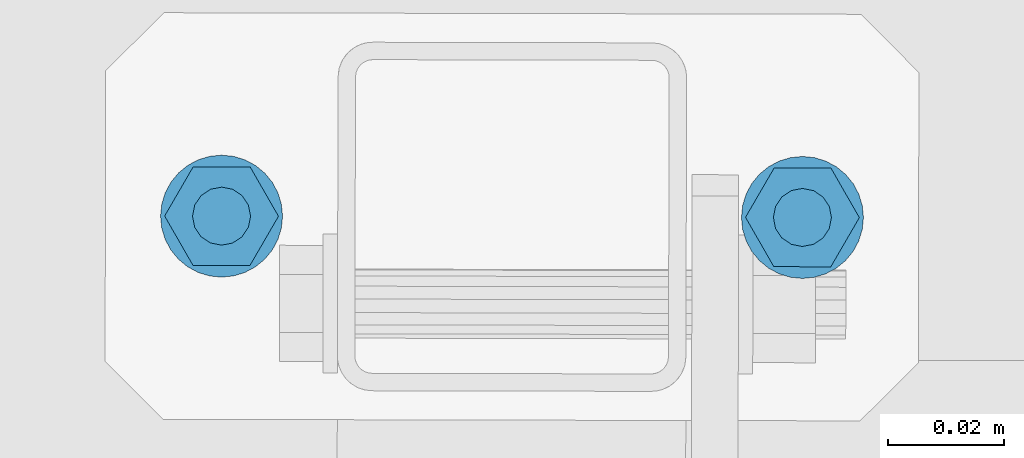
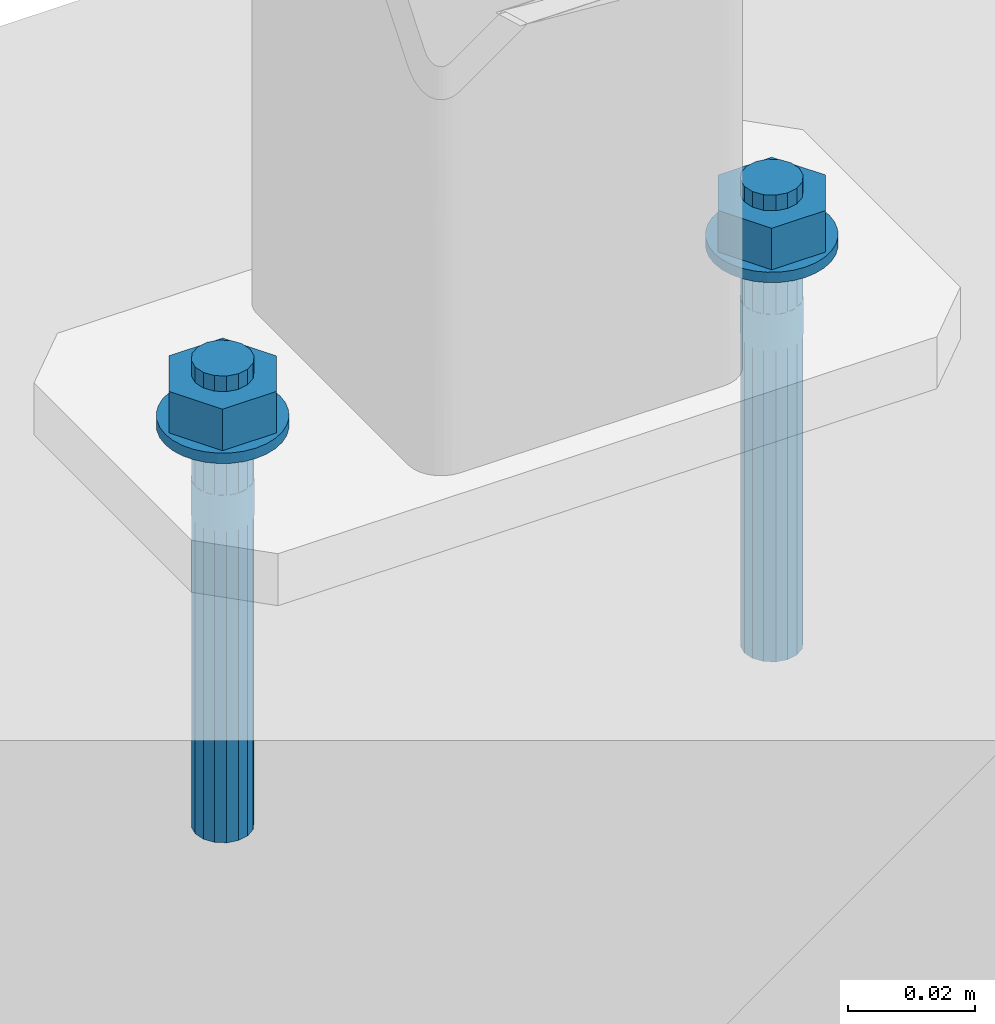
# One storey, part 231 of 288: 2 mechanical fasteners.
"""IFC2X3 building model written with IfcOpenShell, lengths in millimetres."""

from ifc_helpers import new_model, entity, si_unit, converted_unit, origin_with_axes, place, context, project, spatial, faceted_brep, element, save


model = new_model("IFC2X3")

# Units and contexts
model_context = context("Model", 3, precision=1e-09, world=origin_with_axes())
ifc_project = project(units=[si_unit("LENGTHUNIT", "METRE", prefix="MILLI"), si_unit("AREAUNIT", "SQUARE_METRE"), si_unit("VOLUMEUNIT", "CUBIC_METRE"), converted_unit("PLANEANGLEUNIT", "DEGREE", entity("IfcPlaneAngleMeasure", 0.01745329), si_unit("PLANEANGLEUNIT", "RADIAN"), dimensions=[0, 0, 0, 0, 0, 0, 0])], contexts=[model_context])

# Site, building, storey
site_placement = place(None, origin_with_axes())
site = spatial("IfcSite", under=ifc_project, at=site_placement, Name="Remont ?wietlik?w nad MC w NCPP w Opolu", CompositionType="ELEMENT")
building_placement = place(site_placement, origin_with_axes())
building = spatial("IfcBuilding", under=site, at=building_placement, Name="Konstrukcja 1", CompositionType="ELEMENT")
storey_placement = place(building_placement, origin_with_axes())
storey = spatial("IfcBuildingStorey", under=building, at=storey_placement, Name="Default Storey", CompositionType="ELEMENT", Elevation=0.0)

# Mechanical fasteners
mechanical_fastener_1_placement = place(None, origin_with_axes())
element("IfcMechanicalFastener", 1, at=mechanical_fastener_1_placement, inside=storey, ObjectType="Anchor_Bolt", NominalDiameter=10.0, NominalLength=90.0, context=model_context, shape_type="Brep", body=[
    faceted_brep([(10169.751802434, 1872.325796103, 12.000000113), (10169.751802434, 1872.325796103, 10.000000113), (10167.702902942, 1872.128675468, 10.000000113), (10167.702902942, 1872.128675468, 12.000000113), (10165.731828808, 1871.535621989, 10.000000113), (10165.731828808, 1871.535621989, 12.000000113), (10163.914327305, 1870.569426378, 10.000000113), (10163.914327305, 1870.569426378, 12.000000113), (10162.320243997, 1869.267218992, 10.000000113), (10162.320243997, 1869.267218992, 12.000000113), (10161.01083861, 1867.67904293, 10.000000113), (10161.01083861, 1867.67904293, 12.000000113), (10160.036430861, 1865.865930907, 10.000000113), (10160.036430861, 1865.865930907, 12.000000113), (10159.434466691, 1863.897559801, 10.000000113), (10159.434466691, 1863.897559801, 12.000000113), (10159.228079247, 1861.84957301, 10.000000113), (10159.228079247, 1861.84957301, 12.000000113), (10159.425199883, 1859.800673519, 10.000000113), (10159.425199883, 1859.800673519, 12.000000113), (10160.018253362, 1857.829599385, 10.000000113), (10160.018253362, 1857.829599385, 12.000000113), (10160.984448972, 1856.012097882, 10.000000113), (10160.984448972, 1856.012097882, 12.000000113), (10162.286656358, 1854.418014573, 10.000000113), (10162.286656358, 1854.418014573, 12.000000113), (10163.874832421, 1853.108609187, 10.000000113), (10163.874832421, 1853.108609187, 12.000000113), (10165.687944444, 1852.134201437, 10.000000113), (10165.687944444, 1852.134201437, 12.000000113), (10167.656315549, 1851.532237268, 10.000000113), (10167.656315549, 1851.532237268, 12.000000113), (10169.70430234, 1851.325849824, 10.000000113), (10169.70430234, 1851.325849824, 12.000000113), (10171.753201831, 1851.522970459, 10.000000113), (10171.753201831, 1851.522970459, 12.000000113), (10173.724275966, 1852.116023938, 10.000000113), (10173.724275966, 1852.116023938, 12.000000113), (10175.541777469, 1853.082219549, 10.000000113), (10175.541777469, 1853.082219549, 12.000000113), (10177.135860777, 1854.384426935, 10.000000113), (10177.135860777, 1854.384426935, 12.000000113), (10178.445266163, 1855.972602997, 10.000000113), (10178.445266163, 1855.972602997, 12.000000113), (10179.419673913, 1857.78571502, 10.000000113), (10179.419673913, 1857.78571502, 12.000000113), (10180.021638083, 1859.754086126, 10.000000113), (10180.021638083, 1859.754086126, 12.000000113), (10180.228025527, 1861.802072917, 10.000000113), (10180.228025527, 1861.802072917, 12.000000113), (10180.030904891, 1863.850972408, 10.000000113), (10180.030904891, 1863.850972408, 12.000000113), (10179.437851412, 1865.822046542, 10.000000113), (10179.437851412, 1865.822046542, 12.000000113), (10178.471655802, 1867.639548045, 10.000000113), (10178.471655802, 1867.639548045, 12.000000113), (10177.169448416, 1869.233631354, 10.000000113), (10177.169448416, 1869.233631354, 12.000000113), (10175.581272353, 1870.54303674, 10.000000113), (10175.581272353, 1870.54303674, 12.000000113), (10173.76816033, 1871.51744449, 10.000000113), (10173.76816033, 1871.51744449, 12.000000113), (10171.799789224, 1872.119408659, 10.000000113), (10171.799789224, 1872.119408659, 12.000000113)], [[[0, 1, 2, 3]], [[3, 2, 4, 5]], [[5, 4, 6, 7]], [[7, 6, 8, 9]], [[9, 8, 10, 11]], [[11, 10, 12, 13]], [[13, 12, 14, 15]], [[15, 14, 16, 17]], [[17, 16, 18, 19]], [[19, 18, 20, 21]], [[21, 20, 22, 23]], [[23, 22, 24, 25]], [[25, 24, 26, 27]], [[27, 26, 28, 29]], [[29, 28, 30, 31]], [[31, 30, 32, 33]], [[33, 32, 34, 35]], [[35, 34, 36, 37]], [[37, 36, 38, 39]], [[39, 38, 40, 41]], [[41, 40, 42, 43]], [[43, 42, 44, 45]], [[45, 44, 46, 47]], [[47, 46, 48, 49]], [[49, 48, 50, 51]], [[51, 50, 52, 53]], [[53, 52, 54, 55]], [[55, 54, 56, 57]], [[57, 56, 58, 59]], [[59, 58, 60, 61]], [[61, 60, 62, 63]], [[63, 62, 1, 0]], [[0, 3, 5, 7, 9, 11, 13, 15, 17, 19, 21, 23, 25, 27, 29, 31, 33, 35, 37, 39, 41, 43, 45, 47, 49, 51, 53, 55, 57, 59, 61, 63]], [[1, 62, 60, 58, 56, 54, 52, 50, 48, 46, 44, 42, 40, 38, 36, 34, 32, 30, 28, 26, 24, 22, 20, 18, 16, 14, 12, 10, 8, 6, 4, 2]]]),
    faceted_brep([(10164.808867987, 1853.349879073, 12.000000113), (10164.808867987, 1853.349879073, 20.000000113), (10159.928077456, 1861.847989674, 20.000000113), (10159.928077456, 1861.847989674, 12.000000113), (10164.847261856, 1870.323933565, 20.000000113), (10164.847261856, 1870.323933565, 12.000000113), (10174.647236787, 1870.301766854, 20.000000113), (10174.647236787, 1870.301766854, 12.000000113), (10179.528027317, 1861.803656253, 20.000000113), (10179.528027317, 1861.803656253, 12.000000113), (10174.608842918, 1853.327712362, 20.000000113), (10174.608842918, 1853.327712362, 12.000000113)], [[[0, 1, 2, 3]], [[3, 2, 4, 5]], [[5, 4, 6, 7]], [[7, 6, 8, 9]], [[9, 8, 10, 11]], [[11, 10, 1, 0]], [[4, 2, 1, 10, 8, 6]], [[0, 3, 5, 7, 9, 11]]]),
    faceted_brep([(10169.739361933, 1866.825810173, 23.000000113), (10169.739361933, 1866.825810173, 20.000000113), (10167.825088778, 1866.449536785, 20.000000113), (10167.825088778, 1866.449536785, 23.000000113), (10166.200524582, 1865.369344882, 20.000000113), (10166.200524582, 1865.369344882, 23.000000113), (10165.112994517, 1863.749683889, 20.000000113), (10165.112994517, 1863.749683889, 23.000000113), (10164.728065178, 1861.83713251, 20.000000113), (10164.728065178, 1861.83713251, 23.000000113), (10165.104338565, 1859.922859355, 20.000000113), (10165.104338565, 1859.922859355, 23.000000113), (10166.184530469, 1858.298295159, 20.000000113), (10166.184530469, 1858.298295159, 23.000000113), (10167.804191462, 1857.210765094, 20.000000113), (10167.804191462, 1857.210765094, 23.000000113), (10169.716742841, 1856.825835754, 20.000000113), (10169.716742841, 1856.825835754, 23.000000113), (10171.631015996, 1857.202109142, 20.000000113), (10171.631015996, 1857.202109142, 23.000000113), (10173.255580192, 1858.282301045, 20.000000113), (10173.255580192, 1858.282301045, 23.000000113), (10174.343110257, 1859.901962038, 20.000000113), (10174.343110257, 1859.901962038, 23.000000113), (10174.728039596, 1861.814513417, 20.000000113), (10174.728039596, 1861.814513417, 23.000000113), (10174.351766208, 1863.728786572, 20.000000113), (10174.351766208, 1863.728786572, 23.000000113), (10173.271574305, 1865.353350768, 20.000000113), (10173.271574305, 1865.353350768, 23.000000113), (10171.651913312, 1866.440880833, 20.000000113), (10171.651913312, 1866.440880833, 23.000000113)], [[[0, 1, 2, 3]], [[3, 2, 4, 5]], [[5, 4, 6, 7]], [[7, 6, 8, 9]], [[9, 8, 10, 11]], [[11, 10, 12, 13]], [[13, 12, 14, 15]], [[15, 14, 16, 17]], [[17, 16, 18, 19]], [[19, 18, 20, 21]], [[21, 20, 22, 23]], [[23, 22, 24, 25]], [[25, 24, 26, 27]], [[27, 26, 28, 29]], [[29, 28, 30, 31]], [[31, 30, 1, 0]], [[0, 3, 5, 7, 9, 11, 13, 15, 17, 19, 21, 23, 25, 27, 29, 31]], [[1, 30, 28, 26, 24, 22, 20, 18, 16, 14, 12, 10, 8, 6, 4, 2]]]),
    faceted_brep([(10169.739361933, 1866.825810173, 10.000000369), (10169.739361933, 1866.825810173, 1.13e-07), (10167.825088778, 1866.449536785, 1.13e-07), (10167.825088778, 1866.449536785, 10.000000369), (10166.200524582, 1865.369344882, 1.13e-07), (10166.200524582, 1865.369344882, 10.000000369), (10165.112994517, 1863.749683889, 1.13e-07), (10165.112994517, 1863.749683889, 10.000000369), (10164.728065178, 1861.83713251, 1.13e-07), (10164.728065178, 1861.83713251, 10.000000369), (10165.104338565, 1859.922859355, 1.13e-07), (10165.104338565, 1859.922859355, 10.000000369), (10166.184530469, 1858.298295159, 1.13e-07), (10166.184530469, 1858.298295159, 10.000000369), (10167.804191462, 1857.210765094, 1.13e-07), (10167.804191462, 1857.210765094, 10.000000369), (10169.716742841, 1856.825835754, 1.13e-07), (10169.716742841, 1856.825835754, 10.000000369), (10171.631015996, 1857.202109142, 1.13e-07), (10171.631015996, 1857.202109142, 10.000000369), (10173.255580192, 1858.282301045, 1.13e-07), (10173.255580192, 1858.282301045, 10.000000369), (10174.343110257, 1859.901962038, 1.13e-07), (10174.343110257, 1859.901962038, 10.000000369), (10174.728039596, 1861.814513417, 1.13e-07), (10174.728039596, 1861.814513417, 10.000000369), (10174.351766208, 1863.728786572, 1.13e-07), (10174.351766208, 1863.728786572, 10.000000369), (10173.271574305, 1865.353350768, 1.13e-07), (10173.271574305, 1865.353350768, 10.000000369), (10171.651913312, 1866.440880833, 1.13e-07), (10171.651913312, 1866.440880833, 10.000000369)], [[[0, 1, 2, 3]], [[3, 2, 4, 5]], [[5, 4, 6, 7]], [[7, 6, 8, 9]], [[9, 8, 10, 11]], [[11, 10, 12, 13]], [[13, 12, 14, 15]], [[15, 14, 16, 17]], [[17, 16, 18, 19]], [[19, 18, 20, 21]], [[21, 20, 22, 23]], [[23, 22, 24, 25]], [[25, 24, 26, 27]], [[27, 26, 28, 29]], [[29, 28, 30, 31]], [[31, 30, 1, 0]], [[0, 3, 5, 7, 9, 11, 13, 15, 17, 19, 21, 23, 25, 27, 29, 31]], [[1, 30, 28, 26, 24, 22, 20, 18, 16, 14, 12, 10, 8, 6, 4, 2]]]),
    faceted_brep([(10169.739361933, 1866.825810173, -1.43e-07), (10169.739361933, 1866.825810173, -6.999999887), (10168.763695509, 1866.731943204, -6.999999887), (10168.763695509, 1866.731943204, -1.43e-07), (10167.825088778, 1866.449536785, -6.999999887), (10167.825088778, 1866.449536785, -1.43e-07), (10166.959611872, 1865.989443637, -6.999999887), (10166.959611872, 1865.989443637, -1.43e-07), (10166.200524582, 1865.369344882, -6.999999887), (10166.200524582, 1865.369344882, -1.43e-07), (10165.576998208, 1864.613070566, -6.999999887), (10165.576998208, 1864.613070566, -1.43e-07), (10165.112994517, 1863.749683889, -6.999999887), (10165.112994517, 1863.749683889, -1.43e-07), (10164.826344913, 1862.812364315, -6.999999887), (10164.826344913, 1862.812364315, -1.43e-07), (10164.728065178, 1861.83713251, -6.999999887), (10164.728065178, 1861.83713251, -1.43e-07), (10164.821932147, 1860.861466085, -6.999999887), (10164.821932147, 1860.861466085, -1.43e-07), (10165.104338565, 1859.922859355, -6.999999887), (10165.104338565, 1859.922859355, -1.43e-07), (10165.564431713, 1859.057382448, -6.999999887), (10165.564431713, 1859.057382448, -1.43e-07), (10166.184530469, 1858.298295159, -6.999999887), (10166.184530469, 1858.298295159, -1.43e-07), (10166.940804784, 1857.674768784, -6.999999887), (10166.940804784, 1857.674768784, -1.43e-07), (10167.804191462, 1857.210765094, -6.999999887), (10167.804191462, 1857.210765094, -1.43e-07), (10168.741511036, 1856.924115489, -6.999999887), (10168.741511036, 1856.924115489, -1.43e-07), (10169.716742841, 1856.825835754, -6.999999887), (10169.716742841, 1856.825835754, -1.43e-07), (10170.692409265, 1856.919702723, -6.999999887), (10170.692409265, 1856.919702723, -1.43e-07), (10171.631015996, 1857.202109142, -6.999999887), (10171.631015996, 1857.202109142, -1.43e-07), (10172.496492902, 1857.66220229, -6.999999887), (10172.496492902, 1857.66220229, -1.43e-07), (10173.255580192, 1858.282301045, -6.999999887), (10173.255580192, 1858.282301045, -1.43e-07), (10173.879106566, 1859.03857536, -6.999999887), (10173.879106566, 1859.03857536, -1.43e-07), (10174.343110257, 1859.901962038, -6.999999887), (10174.343110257, 1859.901962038, -1.43e-07), (10174.629759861, 1860.839281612, -6.999999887), (10174.629759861, 1860.839281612, -1.43e-07), (10174.728039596, 1861.814513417, -6.999999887), (10174.728039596, 1861.814513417, -1.43e-07), (10174.634172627, 1862.790179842, -6.999999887), (10174.634172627, 1862.790179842, -1.43e-07), (10174.351766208, 1863.728786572, -6.999999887), (10174.351766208, 1863.728786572, -1.43e-07), (10173.891673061, 1864.594263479, -6.999999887), (10173.891673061, 1864.594263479, -1.43e-07), (10173.271574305, 1865.353350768, -6.999999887), (10173.271574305, 1865.353350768, -1.43e-07), (10172.51529999, 1865.976877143, -6.999999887), (10172.51529999, 1865.976877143, -1.43e-07), (10171.651913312, 1866.440880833, -6.999999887), (10171.651913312, 1866.440880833, -1.43e-07), (10170.714593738, 1866.727530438, -6.999999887), (10170.714593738, 1866.727530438, -1.43e-07)], [[[0, 1, 2, 3]], [[3, 2, 4, 5]], [[5, 4, 6, 7]], [[7, 6, 8, 9]], [[9, 8, 10, 11]], [[11, 10, 12, 13]], [[13, 12, 14, 15]], [[15, 14, 16, 17]], [[17, 16, 18, 19]], [[19, 18, 20, 21]], [[21, 20, 22, 23]], [[23, 22, 24, 25]], [[25, 24, 26, 27]], [[27, 26, 28, 29]], [[29, 28, 30, 31]], [[31, 30, 32, 33]], [[33, 32, 34, 35]], [[35, 34, 36, 37]], [[37, 36, 38, 39]], [[39, 38, 40, 41]], [[41, 40, 42, 43]], [[43, 42, 44, 45]], [[45, 44, 46, 47]], [[47, 46, 48, 49]], [[49, 48, 50, 51]], [[51, 50, 52, 53]], [[53, 52, 54, 55]], [[55, 54, 56, 57]], [[57, 56, 58, 59]], [[59, 58, 60, 61]], [[61, 60, 62, 63]], [[63, 62, 1, 0]], [[0, 3, 5, 7, 9, 11, 13, 15, 17, 19, 21, 23, 25, 27, 29, 31, 33, 35, 37, 39, 41, 43, 45, 47, 49, 51, 53, 55, 57, 59, 61, 63]], [[1, 62, 60, 58, 56, 54, 52, 50, 48, 46, 44, 42, 40, 38, 36, 34, 32, 30, 28, 26, 24, 22, 20, 18, 16, 14, 12, 10, 8, 6, 4, 2]]]),
    faceted_brep([(10169.739361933, 1866.825810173, -6.999999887), (10169.739361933, 1866.825810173, -66.999999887), (10167.825088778, 1866.449536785, -66.999999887), (10167.825088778, 1866.449536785, -6.999999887), (10166.200524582, 1865.369344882, -66.999999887), (10166.200524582, 1865.369344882, -6.999999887), (10165.112994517, 1863.749683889, -66.999999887), (10165.112994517, 1863.749683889, -6.999999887), (10164.728065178, 1861.83713251, -66.999999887), (10164.728065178, 1861.83713251, -6.999999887), (10165.104338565, 1859.922859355, -66.999999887), (10165.104338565, 1859.922859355, -6.999999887), (10166.184530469, 1858.298295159, -66.999999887), (10166.184530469, 1858.298295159, -6.999999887), (10167.804191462, 1857.210765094, -66.999999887), (10167.804191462, 1857.210765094, -6.999999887), (10169.716742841, 1856.825835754, -66.999999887), (10169.716742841, 1856.825835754, -6.999999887), (10171.631015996, 1857.202109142, -66.999999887), (10171.631015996, 1857.202109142, -6.999999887), (10173.255580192, 1858.282301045, -66.999999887), (10173.255580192, 1858.282301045, -6.999999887), (10174.343110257, 1859.901962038, -66.999999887), (10174.343110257, 1859.901962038, -6.999999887), (10174.728039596, 1861.814513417, -66.999999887), (10174.728039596, 1861.814513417, -6.999999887), (10174.351766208, 1863.728786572, -66.999999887), (10174.351766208, 1863.728786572, -6.999999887), (10173.271574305, 1865.353350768, -66.999999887), (10173.271574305, 1865.353350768, -6.999999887), (10171.651913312, 1866.440880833, -66.999999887), (10171.651913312, 1866.440880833, -6.999999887)], [[[0, 1, 2, 3]], [[3, 2, 4, 5]], [[5, 4, 6, 7]], [[7, 6, 8, 9]], [[9, 8, 10, 11]], [[11, 10, 12, 13]], [[13, 12, 14, 15]], [[15, 14, 16, 17]], [[17, 16, 18, 19]], [[19, 18, 20, 21]], [[21, 20, 22, 23]], [[23, 22, 24, 25]], [[25, 24, 26, 27]], [[27, 26, 28, 29]], [[29, 28, 30, 31]], [[31, 30, 1, 0]], [[0, 3, 5, 7, 9, 11, 13, 15, 17, 19, 21, 23, 25, 27, 29, 31]], [[1, 30, 28, 26, 24, 22, 20, 18, 16, 14, 12, 10, 8, 6, 4, 2]]]),
])
mechanical_fastener_2_placement = place(None, origin_with_axes())
element("IfcMechanicalFastener", 2, at=mechanical_fastener_2_placement, inside=storey, ObjectType="Anchor_Bolt", NominalDiameter=10.0, NominalLength=90.0, context=model_context, shape_type="Brep", body=[
    faceted_brep([(10069.752058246, 1872.551987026, 12.000000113), (10069.752058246, 1872.551987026, 10.000000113), (10067.703158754, 1872.354866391, 10.000000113), (10067.703158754, 1872.354866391, 12.000000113), (10065.73208462, 1871.761812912, 10.000000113), (10065.73208462, 1871.761812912, 12.000000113), (10063.914583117, 1870.795617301, 10.000000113), (10063.914583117, 1870.795617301, 12.000000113), (10062.320499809, 1869.493409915, 10.000000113), (10062.320499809, 1869.493409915, 12.000000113), (10061.011094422, 1867.905233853, 10.000000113), (10061.011094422, 1867.905233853, 12.000000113), (10060.036686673, 1866.09212183, 10.000000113), (10060.036686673, 1866.09212183, 12.000000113), (10059.434722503, 1864.123750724, 10.000000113), (10059.434722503, 1864.123750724, 12.000000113), (10059.228335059, 1862.075763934, 10.000000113), (10059.228335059, 1862.075763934, 12.000000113), (10059.425455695, 1860.026864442, 10.000000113), (10059.425455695, 1860.026864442, 12.000000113), (10060.018509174, 1858.055790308, 10.000000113), (10060.018509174, 1858.055790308, 12.000000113), (10060.984704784, 1856.238288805, 10.000000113), (10060.984704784, 1856.238288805, 12.000000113), (10062.28691217, 1854.644205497, 10.000000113), (10062.28691217, 1854.644205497, 12.000000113), (10063.875088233, 1853.33480011, 10.000000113), (10063.875088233, 1853.33480011, 12.000000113), (10065.688200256, 1852.36039236, 10.000000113), (10065.688200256, 1852.36039236, 12.000000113), (10067.656571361, 1851.758428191, 10.000000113), (10067.656571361, 1851.758428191, 12.000000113), (10069.704558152, 1851.552040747, 10.000000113), (10069.704558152, 1851.552040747, 12.000000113), (10071.753457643, 1851.749161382, 10.000000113), (10071.753457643, 1851.749161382, 12.000000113), (10073.724531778, 1852.342214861, 10.000000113), (10073.724531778, 1852.342214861, 12.000000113), (10075.542033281, 1853.308410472, 10.000000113), (10075.542033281, 1853.308410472, 12.000000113), (10077.136116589, 1854.610617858, 10.000000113), (10077.136116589, 1854.610617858, 12.000000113), (10078.445521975, 1856.19879392, 10.000000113), (10078.445521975, 1856.19879392, 12.000000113), (10079.419929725, 1858.011905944, 10.000000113), (10079.419929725, 1858.011905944, 12.000000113), (10080.021893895, 1859.980277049, 10.000000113), (10080.021893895, 1859.980277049, 12.000000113), (10080.228281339, 1862.02826384, 10.000000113), (10080.228281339, 1862.02826384, 12.000000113), (10080.031160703, 1864.077163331, 10.000000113), (10080.031160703, 1864.077163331, 12.000000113), (10079.438107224, 1866.048237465, 10.000000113), (10079.438107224, 1866.048237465, 12.000000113), (10078.471911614, 1867.865738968, 10.000000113), (10078.471911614, 1867.865738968, 12.000000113), (10077.169704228, 1869.459822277, 10.000000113), (10077.169704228, 1869.459822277, 12.000000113), (10075.581528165, 1870.769227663, 10.000000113), (10075.581528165, 1870.769227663, 12.000000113), (10073.768416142, 1871.743635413, 10.000000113), (10073.768416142, 1871.743635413, 12.000000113), (10071.800045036, 1872.345599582, 10.000000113), (10071.800045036, 1872.345599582, 12.000000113)], [[[0, 1, 2, 3]], [[3, 2, 4, 5]], [[5, 4, 6, 7]], [[7, 6, 8, 9]], [[9, 8, 10, 11]], [[11, 10, 12, 13]], [[13, 12, 14, 15]], [[15, 14, 16, 17]], [[17, 16, 18, 19]], [[19, 18, 20, 21]], [[21, 20, 22, 23]], [[23, 22, 24, 25]], [[25, 24, 26, 27]], [[27, 26, 28, 29]], [[29, 28, 30, 31]], [[31, 30, 32, 33]], [[33, 32, 34, 35]], [[35, 34, 36, 37]], [[37, 36, 38, 39]], [[39, 38, 40, 41]], [[41, 40, 42, 43]], [[43, 42, 44, 45]], [[45, 44, 46, 47]], [[47, 46, 48, 49]], [[49, 48, 50, 51]], [[51, 50, 52, 53]], [[53, 52, 54, 55]], [[55, 54, 56, 57]], [[57, 56, 58, 59]], [[59, 58, 60, 61]], [[61, 60, 62, 63]], [[63, 62, 1, 0]], [[0, 3, 5, 7, 9, 11, 13, 15, 17, 19, 21, 23, 25, 27, 29, 31, 33, 35, 37, 39, 41, 43, 45, 47, 49, 51, 53, 55, 57, 59, 61, 63]], [[1, 62, 60, 58, 56, 54, 52, 50, 48, 46, 44, 42, 40, 38, 36, 34, 32, 30, 28, 26, 24, 22, 20, 18, 16, 14, 12, 10, 8, 6, 4, 2]]]),
    faceted_brep([(10064.809123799, 1853.576069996, 12.000000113), (10064.809123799, 1853.576069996, 20.000000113), (10059.928333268, 1862.074180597, 20.000000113), (10059.928333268, 1862.074180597, 12.000000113), (10064.847517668, 1870.550124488, 20.000000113), (10064.847517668, 1870.550124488, 12.000000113), (10074.647492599, 1870.527957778, 20.000000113), (10074.647492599, 1870.527957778, 12.000000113), (10079.528283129, 1862.029847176, 20.000000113), (10079.528283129, 1862.029847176, 12.000000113), (10074.60909873, 1853.553903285, 20.000000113), (10074.60909873, 1853.553903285, 12.000000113)], [[[0, 1, 2, 3]], [[3, 2, 4, 5]], [[5, 4, 6, 7]], [[7, 6, 8, 9]], [[9, 8, 10, 11]], [[11, 10, 1, 0]], [[4, 2, 1, 10, 8, 6]], [[0, 3, 5, 7, 9, 11]]]),
    faceted_brep([(10069.739617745, 1867.052001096, 23.000000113), (10069.739617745, 1867.052001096, 20.000000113), (10067.82534459, 1866.675727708, 20.000000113), (10067.82534459, 1866.675727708, 23.000000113), (10066.200780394, 1865.595535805, 20.000000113), (10066.200780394, 1865.595535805, 23.000000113), (10065.113250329, 1863.975874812, 20.000000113), (10065.113250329, 1863.975874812, 23.000000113), (10064.72832099, 1862.063323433, 20.000000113), (10064.72832099, 1862.063323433, 23.000000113), (10065.104594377, 1860.149050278, 20.000000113), (10065.104594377, 1860.149050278, 23.000000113), (10066.184786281, 1858.524486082, 20.000000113), (10066.184786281, 1858.524486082, 23.000000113), (10067.804447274, 1857.436956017, 20.000000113), (10067.804447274, 1857.436956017, 23.000000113), (10069.716998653, 1857.052026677, 20.000000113), (10069.716998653, 1857.052026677, 23.000000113), (10071.631271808, 1857.428300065, 20.000000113), (10071.631271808, 1857.428300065, 23.000000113), (10073.255836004, 1858.508491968, 20.000000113), (10073.255836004, 1858.508491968, 23.000000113), (10074.343366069, 1860.128152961, 20.000000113), (10074.343366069, 1860.128152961, 23.000000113), (10074.728295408, 1862.040704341, 20.000000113), (10074.728295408, 1862.040704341, 23.000000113), (10074.35202202, 1863.954977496, 20.000000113), (10074.35202202, 1863.954977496, 23.000000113), (10073.271830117, 1865.579541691, 20.000000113), (10073.271830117, 1865.579541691, 23.000000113), (10071.652169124, 1866.667071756, 20.000000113), (10071.652169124, 1866.667071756, 23.000000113)], [[[0, 1, 2, 3]], [[3, 2, 4, 5]], [[5, 4, 6, 7]], [[7, 6, 8, 9]], [[9, 8, 10, 11]], [[11, 10, 12, 13]], [[13, 12, 14, 15]], [[15, 14, 16, 17]], [[17, 16, 18, 19]], [[19, 18, 20, 21]], [[21, 20, 22, 23]], [[23, 22, 24, 25]], [[25, 24, 26, 27]], [[27, 26, 28, 29]], [[29, 28, 30, 31]], [[31, 30, 1, 0]], [[0, 3, 5, 7, 9, 11, 13, 15, 17, 19, 21, 23, 25, 27, 29, 31]], [[1, 30, 28, 26, 24, 22, 20, 18, 16, 14, 12, 10, 8, 6, 4, 2]]]),
    faceted_brep([(10069.739617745, 1867.052001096, 10.000000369), (10069.739617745, 1867.052001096, 1.13e-07), (10067.82534459, 1866.675727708, 1.13e-07), (10067.82534459, 1866.675727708, 10.000000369), (10066.200780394, 1865.595535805, 1.13e-07), (10066.200780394, 1865.595535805, 10.000000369), (10065.113250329, 1863.975874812, 1.13e-07), (10065.113250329, 1863.975874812, 10.000000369), (10064.72832099, 1862.063323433, 1.13e-07), (10064.72832099, 1862.063323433, 10.000000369), (10065.104594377, 1860.149050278, 1.13e-07), (10065.104594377, 1860.149050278, 10.000000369), (10066.184786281, 1858.524486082, 1.13e-07), (10066.184786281, 1858.524486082, 10.000000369), (10067.804447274, 1857.436956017, 1.13e-07), (10067.804447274, 1857.436956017, 10.000000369), (10069.716998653, 1857.052026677, 1.13e-07), (10069.716998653, 1857.052026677, 10.000000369), (10071.631271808, 1857.428300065, 1.13e-07), (10071.631271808, 1857.428300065, 10.000000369), (10073.255836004, 1858.508491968, 1.13e-07), (10073.255836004, 1858.508491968, 10.000000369), (10074.343366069, 1860.128152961, 1.13e-07), (10074.343366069, 1860.128152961, 10.000000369), (10074.728295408, 1862.040704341, 1.13e-07), (10074.728295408, 1862.040704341, 10.000000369), (10074.35202202, 1863.954977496, 1.13e-07), (10074.35202202, 1863.954977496, 10.000000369), (10073.271830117, 1865.579541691, 1.13e-07), (10073.271830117, 1865.579541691, 10.000000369), (10071.652169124, 1866.667071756, 1.13e-07), (10071.652169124, 1866.667071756, 10.000000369)], [[[0, 1, 2, 3]], [[3, 2, 4, 5]], [[5, 4, 6, 7]], [[7, 6, 8, 9]], [[9, 8, 10, 11]], [[11, 10, 12, 13]], [[13, 12, 14, 15]], [[15, 14, 16, 17]], [[17, 16, 18, 19]], [[19, 18, 20, 21]], [[21, 20, 22, 23]], [[23, 22, 24, 25]], [[25, 24, 26, 27]], [[27, 26, 28, 29]], [[29, 28, 30, 31]], [[31, 30, 1, 0]], [[0, 3, 5, 7, 9, 11, 13, 15, 17, 19, 21, 23, 25, 27, 29, 31]], [[1, 30, 28, 26, 24, 22, 20, 18, 16, 14, 12, 10, 8, 6, 4, 2]]]),
    faceted_brep([(10069.739617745, 1867.052001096, -1.43e-07), (10069.739617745, 1867.052001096, -6.999999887), (10068.763951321, 1866.958134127, -6.999999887), (10068.763951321, 1866.958134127, -1.43e-07), (10067.82534459, 1866.675727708, -6.999999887), (10067.82534459, 1866.675727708, -1.43e-07), (10066.959867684, 1866.21563456, -6.999999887), (10066.959867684, 1866.21563456, -1.43e-07), (10066.200780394, 1865.595535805, -6.999999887), (10066.200780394, 1865.595535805, -1.43e-07), (10065.57725402, 1864.83926149, -6.999999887), (10065.57725402, 1864.83926149, -1.43e-07), (10065.113250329, 1863.975874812, -6.999999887), (10065.113250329, 1863.975874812, -1.43e-07), (10064.826600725, 1863.038555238, -6.999999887), (10064.826600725, 1863.038555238, -1.43e-07), (10064.72832099, 1862.063323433, -6.999999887), (10064.72832099, 1862.063323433, -1.43e-07), (10064.822187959, 1861.087657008, -6.999999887), (10064.822187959, 1861.087657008, -1.43e-07), (10065.104594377, 1860.149050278, -6.999999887), (10065.104594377, 1860.149050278, -1.43e-07), (10065.564687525, 1859.283573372, -6.999999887), (10065.564687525, 1859.283573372, -1.43e-07), (10066.184786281, 1858.524486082, -6.999999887), (10066.184786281, 1858.524486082, -1.43e-07), (10066.941060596, 1857.900959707, -6.999999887), (10066.941060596, 1857.900959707, -1.43e-07), (10067.804447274, 1857.436956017, -6.999999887), (10067.804447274, 1857.436956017, -1.43e-07), (10068.741766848, 1857.150306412, -6.999999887), (10068.741766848, 1857.150306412, -1.43e-07), (10069.716998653, 1857.052026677, -6.999999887), (10069.716998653, 1857.052026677, -1.43e-07), (10070.692665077, 1857.145893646, -6.999999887), (10070.692665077, 1857.145893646, -1.43e-07), (10071.631271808, 1857.428300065, -6.999999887), (10071.631271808, 1857.428300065, -1.43e-07), (10072.496748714, 1857.888393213, -6.999999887), (10072.496748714, 1857.888393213, -1.43e-07), (10073.255836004, 1858.508491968, -6.999999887), (10073.255836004, 1858.508491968, -1.43e-07), (10073.879362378, 1859.264766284, -6.999999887), (10073.879362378, 1859.264766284, -1.43e-07), (10074.343366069, 1860.128152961, -6.999999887), (10074.343366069, 1860.128152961, -1.43e-07), (10074.630015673, 1861.065472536, -6.999999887), (10074.630015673, 1861.065472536, -1.43e-07), (10074.728295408, 1862.040704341, -6.999999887), (10074.728295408, 1862.040704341, -1.43e-07), (10074.634428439, 1863.016370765, -6.999999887), (10074.634428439, 1863.016370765, -1.43e-07), (10074.35202202, 1863.954977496, -6.999999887), (10074.35202202, 1863.954977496, -1.43e-07), (10073.891928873, 1864.820454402, -6.999999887), (10073.891928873, 1864.820454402, -1.43e-07), (10073.271830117, 1865.579541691, -6.999999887), (10073.271830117, 1865.579541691, -1.43e-07), (10072.515555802, 1866.203068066, -6.999999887), (10072.515555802, 1866.203068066, -1.43e-07), (10071.652169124, 1866.667071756, -6.999999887), (10071.652169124, 1866.667071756, -1.43e-07), (10070.71484955, 1866.953721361, -6.999999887), (10070.71484955, 1866.953721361, -1.43e-07)], [[[0, 1, 2, 3]], [[3, 2, 4, 5]], [[5, 4, 6, 7]], [[7, 6, 8, 9]], [[9, 8, 10, 11]], [[11, 10, 12, 13]], [[13, 12, 14, 15]], [[15, 14, 16, 17]], [[17, 16, 18, 19]], [[19, 18, 20, 21]], [[21, 20, 22, 23]], [[23, 22, 24, 25]], [[25, 24, 26, 27]], [[27, 26, 28, 29]], [[29, 28, 30, 31]], [[31, 30, 32, 33]], [[33, 32, 34, 35]], [[35, 34, 36, 37]], [[37, 36, 38, 39]], [[39, 38, 40, 41]], [[41, 40, 42, 43]], [[43, 42, 44, 45]], [[45, 44, 46, 47]], [[47, 46, 48, 49]], [[49, 48, 50, 51]], [[51, 50, 52, 53]], [[53, 52, 54, 55]], [[55, 54, 56, 57]], [[57, 56, 58, 59]], [[59, 58, 60, 61]], [[61, 60, 62, 63]], [[63, 62, 1, 0]], [[0, 3, 5, 7, 9, 11, 13, 15, 17, 19, 21, 23, 25, 27, 29, 31, 33, 35, 37, 39, 41, 43, 45, 47, 49, 51, 53, 55, 57, 59, 61, 63]], [[1, 62, 60, 58, 56, 54, 52, 50, 48, 46, 44, 42, 40, 38, 36, 34, 32, 30, 28, 26, 24, 22, 20, 18, 16, 14, 12, 10, 8, 6, 4, 2]]]),
    faceted_brep([(10069.739617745, 1867.052001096, -6.999999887), (10069.739617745, 1867.052001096, -66.999999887), (10067.82534459, 1866.675727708, -66.999999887), (10067.82534459, 1866.675727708, -6.999999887), (10066.200780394, 1865.595535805, -66.999999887), (10066.200780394, 1865.595535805, -6.999999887), (10065.113250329, 1863.975874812, -66.999999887), (10065.113250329, 1863.975874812, -6.999999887), (10064.72832099, 1862.063323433, -66.999999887), (10064.72832099, 1862.063323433, -6.999999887), (10065.104594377, 1860.149050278, -66.999999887), (10065.104594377, 1860.149050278, -6.999999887), (10066.184786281, 1858.524486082, -66.999999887), (10066.184786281, 1858.524486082, -6.999999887), (10067.804447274, 1857.436956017, -66.999999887), (10067.804447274, 1857.436956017, -6.999999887), (10069.716998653, 1857.052026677, -66.999999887), (10069.716998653, 1857.052026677, -6.999999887), (10071.631271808, 1857.428300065, -66.999999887), (10071.631271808, 1857.428300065, -6.999999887), (10073.255836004, 1858.508491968, -66.999999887), (10073.255836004, 1858.508491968, -6.999999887), (10074.343366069, 1860.128152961, -66.999999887), (10074.343366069, 1860.128152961, -6.999999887), (10074.728295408, 1862.040704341, -66.999999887), (10074.728295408, 1862.040704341, -6.999999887), (10074.35202202, 1863.954977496, -66.999999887), (10074.35202202, 1863.954977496, -6.999999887), (10073.271830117, 1865.579541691, -66.999999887), (10073.271830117, 1865.579541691, -6.999999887), (10071.652169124, 1866.667071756, -66.999999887), (10071.652169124, 1866.667071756, -6.999999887)], [[[0, 1, 2, 3]], [[3, 2, 4, 5]], [[5, 4, 6, 7]], [[7, 6, 8, 9]], [[9, 8, 10, 11]], [[11, 10, 12, 13]], [[13, 12, 14, 15]], [[15, 14, 16, 17]], [[17, 16, 18, 19]], [[19, 18, 20, 21]], [[21, 20, 22, 23]], [[23, 22, 24, 25]], [[25, 24, 26, 27]], [[27, 26, 28, 29]], [[29, 28, 30, 31]], [[31, 30, 1, 0]], [[0, 3, 5, 7, 9, 11, 13, 15, 17, 19, 21, 23, 25, 27, 29, 31]], [[1, 30, 28, 26, 24, 22, 20, 18, 16, 14, 12, 10, 8, 6, 4, 2]]]),
])

save(model, "model.ifc")
